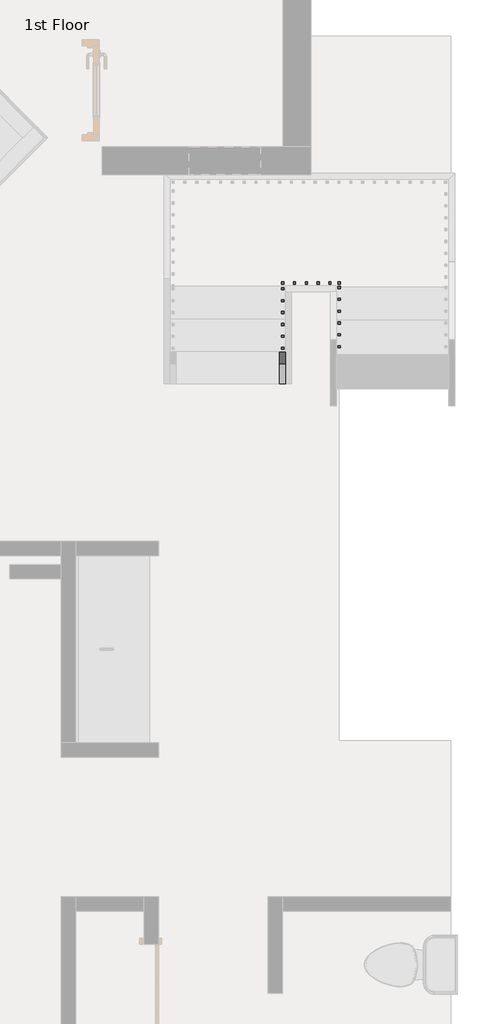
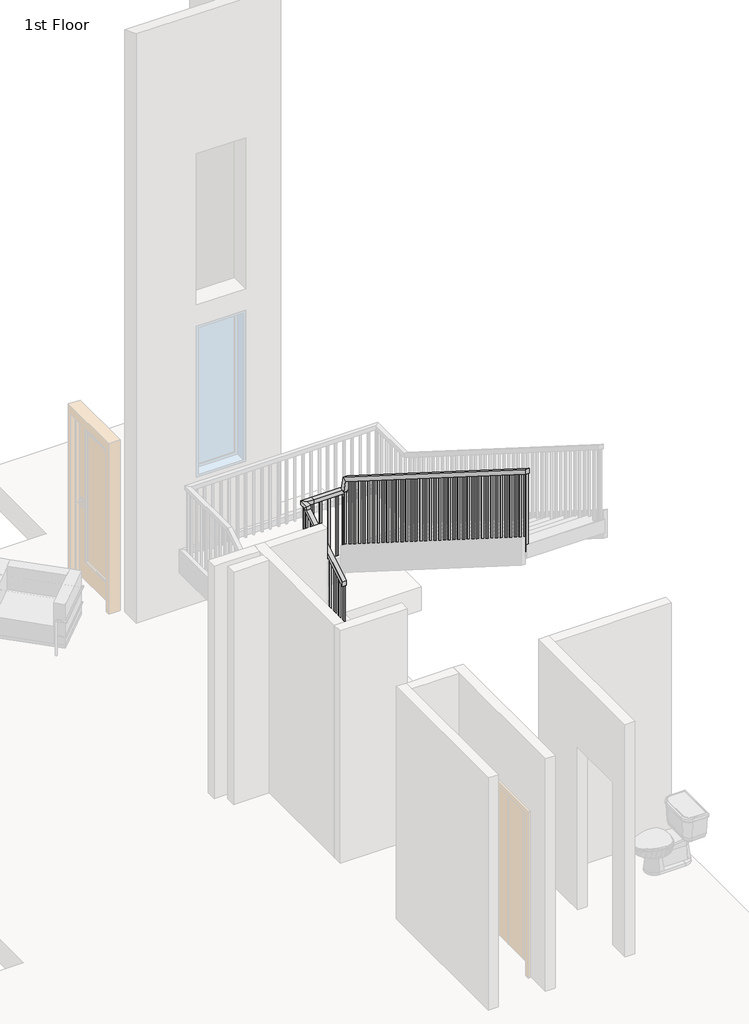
# One storey, part 4 of 6: 1 railing.
"""IFC4 building model written with IfcOpenShell, lengths in millimetres."""

from ifc_helpers import new_model, si_unit, frame, origin, place, context, project, spatial, polyline, outline, extrude, faceted_brep, element, save

model = new_model("IFC4")

# Units and contexts
model_context = context("Model", 3, world=origin())
ifc_project = project(units=[si_unit("LENGTHUNIT", "METRE", prefix="MILLI")], contexts=[model_context])

# Site, building, storey
site = spatial("IfcSite", under=ifc_project)
building = spatial("IfcBuilding", under=site)
storey = spatial("IfcBuildingStorey", under=building, Name="1st Floor", Elevation=0.0)

# Railing
placement = place(None, origin())
element("IfcRailing", 1, ObjectType="Handrail - Rectangular", at=placement, inside=storey, context=model_context, shape_type="SolidModel", body=[
    faceted_brep([(4173.7939282, 2721.6563085, 1090.8631579), (4173.7939282, 2721.6563085, 1030.7795781), (4224.5939282, 2721.6563085, 1030.7795781), (4224.5939282, 2721.6563085, 1090.8631579), (4173.7939282, 3483.6563085, 1572.1263158), (4173.7939282, 3534.4563085, 1544.1269465), (4224.5939282, 3534.4563085, 1544.1269465), (4224.5939282, 3483.6563085, 1572.1263158), (4173.7939282, 3483.6563085, 1620.2526316), (4173.7939282, 3534.4563085, 1569.4526316), (4224.5939282, 3534.4563085, 1569.4526316), (4224.5939282, 3483.6563085, 1620.2526316), (4173.7939282, 3610.6563085, 1620.2526316), (4173.7939282, 3610.6563085, 1569.4526316), (4224.5939282, 3559.8563085, 1569.4526316), (4224.5939282, 3559.8563085, 1620.2526316), (4300.7939282, 3610.6563085, 1620.2526316), (4300.7939282, 3610.6563085, 1569.4526316), (4300.7939282, 3559.8563085, 1569.4526316), (4300.7939282, 3559.8563085, 1620.2526316), (4709.2030789, 3610.6563085, 1620.2526316), (4709.2030789, 3559.8563085, 1620.2526316), (4709.2030789, 3559.8563085, 1569.4526316), (4709.2030789, 3610.6563085, 1569.4526316)], [[[0, 1, 2, 3]], [[1, 0, 4, 5]], [[2, 1, 5, 6]], [[3, 2, 6, 7]], [[0, 3, 7, 4]], [[5, 4, 8, 9]], [[6, 5, 9, 10]], [[7, 6, 10, 11]], [[4, 7, 11, 8]], [[9, 8, 12, 13]], [[10, 9, 13, 14]], [[11, 10, 14, 15]], [[8, 11, 15, 12]], [[13, 12, 16, 17]], [[14, 13, 17, 18]], [[15, 14, 18, 19]], [[12, 15, 19, 16]], [[20, 21, 22, 23]], [[17, 16, 20, 23]], [[18, 17, 23, 22]], [[19, 18, 22, 21]], [[16, 19, 21, 20]]]),
    faceted_brep([(4709.2030789, 3585.2563085, 1620.2526316), (4709.2030789, 3535.6297104, 1609.3971833), (4658.4030789, 3535.6297104, 1609.3971833), (4658.4030789, 3585.2563085, 1620.2526316), (4709.2030789, 3546.6563085, 1796.7157895), (4709.2030789, 3501.5690485, 1765.1083739), (4658.4030789, 3501.5690485, 1765.1083739), (4658.4030789, 3546.6563085, 1796.7157895), (4709.2030789, -364.9436915, 4267.2), (4658.4030789, -364.9436915, 4267.2), (4658.4030789, -364.9436915, 4207.1164202), (4709.2030789, -364.9436915, 4207.1164202)], [[[0, 1, 2, 3]], [[1, 0, 4, 5]], [[2, 1, 5, 6]], [[3, 2, 6, 7]], [[0, 3, 7, 4]], [[8, 9, 10, 11]], [[5, 4, 8, 11]], [[6, 5, 11, 10]], [[7, 6, 10, 9]], [[4, 7, 9, 8]]]),
    extrude(outline(polyline([(-323.6686915, 4181.0479991), (-304.6186915, 4169.0164202), (-304.6186915, 3176.3368421), (-323.6686915, 3176.3368421), (-323.6686915, 4181.0479991)])), frame((4674.2780789, 0.0, 0.0), z_axis=(1.0, 0.0, 0.0), x_axis=(0.0, 1.0, 0.0)), (0.0, 0.0, 1.0), 19.05),
    extrude(outline(polyline([(-222.0686915, 4116.8795781), (-203.0186915, 4104.8479991), (-203.0186915, 3176.3368421), (-222.0686915, 3176.3368421), (-222.0686915, 4116.8795781)])), frame((4674.2780789, 0.0, 0.0), z_axis=(1.0, 0.0, 0.0), x_axis=(0.0, 1.0, 0.0)), (0.0, 0.0, 1.0), 19.05),
    extrude(outline(polyline([(-120.4686915, 4052.711157), (-101.4186915, 4040.6795781), (-101.4186915, 3176.3368421), (-120.4686915, 3176.3368421), (-120.4686915, 4052.711157)])), frame((4674.2780789, 0.0, 0.0), z_axis=(1.0, 0.0, 0.0), x_axis=(0.0, 1.0, 0.0)), (0.0, 0.0, 1.0), 19.05),
    extrude(outline(polyline([(-18.8686915, 3988.542736), (0.1813085, 3976.511157), (0.1813085, 2999.8736842), (-18.8686915, 2999.8736842), (-18.8686915, 3988.542736)])), frame((4674.2780789, 0.0, 0.0), z_axis=(1.0, 0.0, 0.0), x_axis=(0.0, 1.0, 0.0)), (0.0, 0.0, 1.0), 19.05),
    extrude(outline(polyline([(82.7313085, 3924.3743149), (101.7813085, 3912.342736), (101.7813085, 2999.8736842), (82.7313085, 2999.8736842), (82.7313085, 3924.3743149)])), frame((4674.2780789, 0.0, 0.0), z_axis=(1.0, 0.0, 0.0), x_axis=(0.0, 1.0, 0.0)), (0.0, 0.0, 1.0), 19.05),
    extrude(outline(polyline([(184.3313085, 3860.2058939), (203.3813085, 3848.1743149), (203.3813085, 2999.8736842), (184.3313085, 2999.8736842), (184.3313085, 3860.2058939)])), frame((4674.2780789, 0.0, 0.0), z_axis=(1.0, 0.0, 0.0), x_axis=(0.0, 1.0, 0.0)), (0.0, 0.0, 1.0), 19.05),
    extrude(outline(polyline([(285.9313085, 3796.0374728), (304.9813085, 3784.0058939), (304.9813085, 2823.4105263), (285.9313085, 2823.4105263), (285.9313085, 3796.0374728)])), frame((4674.2780789, 0.0, 0.0), z_axis=(1.0, 0.0, 0.0), x_axis=(0.0, 1.0, 0.0)), (0.0, 0.0, 1.0), 19.05),
    extrude(outline(polyline([(387.5313085, 3731.8690517), (406.5813085, 3719.8374728), (406.5813085, 2823.4105263), (387.5313085, 2823.4105263), (387.5313085, 3731.8690517)])), frame((4674.2780789, 0.0, 0.0), z_axis=(1.0, 0.0, 0.0), x_axis=(0.0, 1.0, 0.0)), (0.0, 0.0, 1.0), 19.05),
    extrude(outline(polyline([(489.1313085, 3667.7006307), (508.1813085, 3655.6690517), (508.1813085, 2646.9473684), (489.1313085, 2646.9473684), (489.1313085, 3667.7006307)])), frame((4674.2780789, 0.0, 0.0), z_axis=(1.0, 0.0, 0.0), x_axis=(0.0, 1.0, 0.0)), (0.0, 0.0, 1.0), 19.05),
    extrude(outline(polyline([(590.7313085, 3603.5322096), (609.7813085, 3591.5006307), (609.7813085, 2646.9473684), (590.7313085, 2646.9473684), (590.7313085, 3603.5322096)])), frame((4674.2780789, 0.0, 0.0), z_axis=(1.0, 0.0, 0.0), x_axis=(0.0, 1.0, 0.0)), (0.0, 0.0, 1.0), 19.05),
    extrude(outline(polyline([(692.3313085, 3539.3637886), (711.3813085, 3527.3322096), (711.3813085, 2646.9473684), (692.3313085, 2646.9473684), (692.3313085, 3539.3637886)])), frame((4674.2780789, 0.0, 0.0), z_axis=(1.0, 0.0, 0.0), x_axis=(0.0, 1.0, 0.0)), (0.0, 0.0, 1.0), 19.05),
    extrude(outline(polyline([(793.9313085, 3475.1953675), (812.9813085, 3463.1637886), (812.9813085, 2470.4842105), (793.9313085, 2470.4842105), (793.9313085, 3475.1953675)])), frame((4674.2780789, 0.0, 0.0), z_axis=(1.0, 0.0, 0.0), x_axis=(0.0, 1.0, 0.0)), (0.0, 0.0, 1.0), 19.05),
    extrude(outline(polyline([(895.5313085, 3411.0269465), (914.5813085, 3398.9953675), (914.5813085, 2470.4842105), (895.5313085, 2470.4842105), (895.5313085, 3411.0269465)])), frame((4674.2780789, 0.0, 0.0), z_axis=(1.0, 0.0, 0.0), x_axis=(0.0, 1.0, 0.0)), (0.0, 0.0, 1.0), 19.05),
    extrude(outline(polyline([(997.1313085, 3346.8585254), (1016.1813085, 3334.8269465), (1016.1813085, 2470.4842105), (997.1313085, 2470.4842105), (997.1313085, 3346.8585254)])), frame((4674.2780789, 0.0, 0.0), z_axis=(1.0, 0.0, 0.0), x_axis=(0.0, 1.0, 0.0)), (0.0, 0.0, 1.0), 19.05),
    extrude(outline(polyline([(1098.7313085, 3282.6901044), (1117.7813085, 3270.6585254), (1117.7813085, 2294.0210526), (1098.7313085, 2294.0210526), (1098.7313085, 3282.6901044)])), frame((4674.2780789, 0.0, 0.0), z_axis=(1.0, 0.0, 0.0), x_axis=(0.0, 1.0, 0.0)), (0.0, 0.0, 1.0), 19.05),
    extrude(outline(polyline([(1200.3313085, 3218.5216833), (1219.3813085, 3206.4901044), (1219.3813085, 2294.0210526), (1200.3313085, 2294.0210526), (1200.3313085, 3218.5216833)])), frame((4674.2780789, 0.0, 0.0), z_axis=(1.0, 0.0, 0.0), x_axis=(0.0, 1.0, 0.0)), (0.0, 0.0, 1.0), 19.05),
    extrude(outline(polyline([(1301.9313085, 3154.3532623), (1320.9813085, 3142.3216833), (1320.9813085, 2294.0210526), (1301.9313085, 2294.0210526), (1301.9313085, 3154.3532623)])), frame((4674.2780789, 0.0, 0.0), z_axis=(1.0, 0.0, 0.0), x_axis=(0.0, 1.0, 0.0)), (0.0, 0.0, 1.0), 19.05),
    extrude(outline(polyline([(1403.5313085, 3090.1848412), (1422.5813085, 3078.1532623), (1422.5813085, 2117.5578947), (1403.5313085, 2117.5578947), (1403.5313085, 3090.1848412)])), frame((4674.2780789, 0.0, 0.0), z_axis=(1.0, 0.0, 0.0), x_axis=(0.0, 1.0, 0.0)), (0.0, 0.0, 1.0), 19.05),
    extrude(outline(polyline([(1505.1313085, 3026.0164202), (1524.1813085, 3013.9848412), (1524.1813085, 2117.5578947), (1505.1313085, 2117.5578947), (1505.1313085, 3026.0164202)])), frame((4674.2780789, 0.0, 0.0), z_axis=(1.0, 0.0, 0.0), x_axis=(0.0, 1.0, 0.0)), (0.0, 0.0, 1.0), 19.05),
    extrude(outline(polyline([(1606.7313085, 2961.8479991), (1625.7813085, 2949.8164202), (1625.7813085, 1941.0947368), (1606.7313085, 1941.0947368), (1606.7313085, 2961.8479991)])), frame((4674.2780789, 0.0, 0.0), z_axis=(1.0, 0.0, 0.0), x_axis=(0.0, 1.0, 0.0)), (0.0, 0.0, 1.0), 19.05),
    extrude(outline(polyline([(1708.3313085, 2897.6795781), (1727.3813085, 2885.6479991), (1727.3813085, 1941.0947368), (1708.3313085, 1941.0947368), (1708.3313085, 2897.6795781)])), frame((4674.2780789, 0.0, 0.0), z_axis=(1.0, 0.0, 0.0), x_axis=(0.0, 1.0, 0.0)), (0.0, 0.0, 1.0), 19.05),
    extrude(outline(polyline([(1809.9313085, 2833.511157), (1828.9813085, 2821.4795781), (1828.9813085, 1941.0947368), (1809.9313085, 1941.0947368), (1809.9313085, 2833.511157)])), frame((4674.2780789, 0.0, 0.0), z_axis=(1.0, 0.0, 0.0), x_axis=(0.0, 1.0, 0.0)), (0.0, 0.0, 1.0), 19.05),
    extrude(outline(polyline([(1911.5313085, 2769.342736), (1930.5813085, 2757.311157), (1930.5813085, 1764.6315789), (1911.5313085, 1764.6315789), (1911.5313085, 2769.342736)])), frame((4674.2780789, 0.0, 0.0), z_axis=(1.0, 0.0, 0.0), x_axis=(0.0, 1.0, 0.0)), (0.0, 0.0, 1.0), 19.05),
    extrude(outline(polyline([(2013.1313085, 2705.1743149), (2032.1813085, 2693.142736), (2032.1813085, 1764.6315789), (2013.1313085, 1764.6315789), (2013.1313085, 2705.1743149)])), frame((4674.2780789, 0.0, 0.0), z_axis=(1.0, 0.0, 0.0), x_axis=(0.0, 1.0, 0.0)), (0.0, 0.0, 1.0), 19.05),
    extrude(outline(polyline([(2114.7313085, 2641.0058939), (2133.7813085, 2628.9743149), (2133.7813085, 1764.6315789), (2114.7313085, 1764.6315789), (2114.7313085, 2641.0058939)])), frame((4674.2780789, 0.0, 0.0), z_axis=(1.0, 0.0, 0.0), x_axis=(0.0, 1.0, 0.0)), (0.0, 0.0, 1.0), 19.05),
    extrude(outline(polyline([(2216.3313085, 2576.8374728), (2235.3813085, 2564.8058939), (2235.3813085, 1588.1684211), (2216.3313085, 1588.1684211), (2216.3313085, 2576.8374728)])), frame((4674.2780789, 0.0, 0.0), z_axis=(1.0, 0.0, 0.0), x_axis=(0.0, 1.0, 0.0)), (0.0, 0.0, 1.0), 19.05),
    extrude(outline(polyline([(2317.9313085, 2512.6690517), (2336.9813085, 2500.6374728), (2336.9813085, 1588.1684211), (2317.9313085, 1588.1684211), (2317.9313085, 2512.6690517)])), frame((4674.2780789, 0.0, 0.0), z_axis=(1.0, 0.0, 0.0), x_axis=(0.0, 1.0, 0.0)), (0.0, 0.0, 1.0), 19.05),
    extrude(outline(polyline([(2419.5313085, 2448.5006307), (2438.5813085, 2436.4690517), (2438.5813085, 1588.1684211), (2419.5313085, 1588.1684211), (2419.5313085, 2448.5006307)])), frame((4674.2780789, 0.0, 0.0), z_axis=(1.0, 0.0, 0.0), x_axis=(0.0, 1.0, 0.0)), (0.0, 0.0, 1.0), 19.05),
    extrude(outline(polyline([(2521.1313085, 2384.3322096), (2540.1813085, 2372.3006307), (2540.1813085, 1411.7052632), (2521.1313085, 1411.7052632), (2521.1313085, 2384.3322096)])), frame((4674.2780789, 0.0, 0.0), z_axis=(1.0, 0.0, 0.0), x_axis=(0.0, 1.0, 0.0)), (0.0, 0.0, 1.0), 19.05),
    extrude(outline(polyline([(2622.7313085, 2320.1637886), (2641.7813085, 2308.1322096), (2641.7813085, 1411.7052632), (2622.7313085, 1411.7052632), (2622.7313085, 2320.1637886)])), frame((4674.2780789, 0.0, 0.0), z_axis=(1.0, 0.0, 0.0), x_axis=(0.0, 1.0, 0.0)), (0.0, 0.0, 1.0), 19.05),
    extrude(outline(polyline([(2724.3313085, 2255.9953675), (2743.3813085, 2243.9637886), (2743.3813085, 1235.2421053), (2724.3313085, 1235.2421053), (2724.3313085, 2255.9953675)])), frame((4674.2780789, 0.0, 0.0), z_axis=(1.0, 0.0, 0.0), x_axis=(0.0, 1.0, 0.0)), (0.0, 0.0, 1.0), 19.05),
    extrude(outline(polyline([(2825.9313085, 2191.8269465), (2844.9813085, 2179.7953675), (2844.9813085, 1235.2421053), (2825.9313085, 1235.2421053), (2825.9313085, 2191.8269465)])), frame((4674.2780789, 0.0, 0.0), z_axis=(1.0, 0.0, 0.0), x_axis=(0.0, 1.0, 0.0)), (0.0, 0.0, 1.0), 19.05),
    extrude(outline(polyline([(2927.5313085, 2127.6585254), (2946.5813085, 2115.6269465), (2946.5813085, 1235.2421053), (2927.5313085, 1235.2421053), (2927.5313085, 2127.6585254)])), frame((4674.2780789, 0.0, 0.0), z_axis=(1.0, 0.0, 0.0), x_axis=(0.0, 1.0, 0.0)), (0.0, 0.0, 1.0), 19.05),
    extrude(outline(polyline([(3029.1313085, 2063.4901044), (3048.1813085, 2051.4585254), (3048.1813085, 1058.7789474), (3029.1313085, 1058.7789474), (3029.1313085, 2063.4901044)])), frame((4674.2780789, 0.0, 0.0), z_axis=(1.0, 0.0, 0.0), x_axis=(0.0, 1.0, 0.0)), (0.0, 0.0, 1.0), 19.05),
    extrude(outline(polyline([(3130.7313085, 1999.3216833), (3149.7813085, 1987.2901044), (3149.7813085, 1058.7789474), (3130.7313085, 1058.7789474), (3130.7313085, 1999.3216833)])), frame((4674.2780789, 0.0, 0.0), z_axis=(1.0, 0.0, 0.0), x_axis=(0.0, 1.0, 0.0)), (0.0, 0.0, 1.0), 19.05),
    extrude(outline(polyline([(3232.3313085, 1935.1532623), (3251.3813085, 1923.1216833), (3251.3813085, 1058.7789474), (3232.3313085, 1058.7789474), (3232.3313085, 1935.1532623)])), frame((4674.2780789, 0.0, 0.0), z_axis=(1.0, 0.0, 0.0), x_axis=(0.0, 1.0, 0.0)), (0.0, 0.0, 1.0), 19.05),
    extrude(outline(polyline([(3333.9313085, 1870.9848412), (3352.9813085, 1858.9532623), (3352.9813085, 882.3157895), (3333.9313085, 882.3157895), (3333.9313085, 1870.9848412)])), frame((4674.2780789, 0.0, 0.0), z_axis=(1.0, 0.0, 0.0), x_axis=(0.0, 1.0, 0.0)), (0.0, 0.0, 1.0), 19.05),
    extrude(outline(polyline([(3435.5313085, 1806.8164202), (3454.5813085, 1794.7848412), (3454.5813085, 882.3157895), (3435.5313085, 882.3157895), (3435.5313085, 1806.8164202)])), frame((4674.2780789, 0.0, 0.0), z_axis=(1.0, 0.0, 0.0), x_axis=(0.0, 1.0, 0.0)), (0.0, 0.0, 1.0), 19.05),
    extrude(outline(polyline([(4596.0689282, 3575.7313085), (4596.0689282, 3594.7813085), (4615.1189282, 3594.7813085), (4615.1189282, 3575.7313085), (4596.0689282, 3575.7313085)])), frame((0.0, 0.0, 705.8526316), z_axis=(0.0, 0.0, 1.0), x_axis=(1.0, 0.0, 0.0)), (0.0, 0.0, 1.0), 863.6),
    extrude(outline(polyline([(4494.4689282, 3575.7313085), (4494.4689282, 3594.7813085), (4513.5189282, 3594.7813085), (4513.5189282, 3575.7313085), (4494.4689282, 3575.7313085)])), frame((0.0, 0.0, 705.8526316), z_axis=(0.0, 0.0, 1.0), x_axis=(1.0, 0.0, 0.0)), (0.0, 0.0, 1.0), 863.6),
    extrude(outline(polyline([(4392.8689282, 3575.7313085), (4392.8689282, 3594.7813085), (4411.9189282, 3594.7813085), (4411.9189282, 3575.7313085), (4392.8689282, 3575.7313085)])), frame((0.0, 0.0, 705.8526316), z_axis=(0.0, 0.0, 1.0), x_axis=(1.0, 0.0, 0.0)), (0.0, 0.0, 1.0), 863.6),
    extrude(outline(polyline([(4291.2689282, 3575.7313085), (4291.2689282, 3594.7813085), (4310.3189282, 3594.7813085), (4310.3189282, 3575.7313085), (4291.2689282, 3575.7313085)])), frame((0.0, 0.0, 705.8526316), z_axis=(0.0, 0.0, 1.0), x_axis=(1.0, 0.0, 0.0)), (0.0, 0.0, 1.0), 863.6),
    extrude(outline(polyline([(4208.7189282, 3524.9313085), (4189.6689282, 3524.9313085), (4189.6689282, 3543.9813085), (4208.7189282, 3543.9813085), (4208.7189282, 3524.9313085)])), frame((0.0, 0.0, 529.3894737), z_axis=(0.0, 0.0, 1.0), x_axis=(1.0, 0.0, 0.0)), (0.0, 0.0, 1.0), 1040.0631579),
    extrude(outline(polyline([(3423.3313085, 1473.942736), (3442.3813085, 1485.9743149), (3442.3813085, 529.3894737), (3423.3313085, 529.3894737), (3423.3313085, 1473.942736)])), frame((4189.6689282, 0.0, 0.0), z_axis=(1.0, 0.0, 0.0), x_axis=(0.0, 1.0, 0.0)), (0.0, 0.0, 1.0), 19.05),
    extrude(outline(polyline([(3321.7313085, 1409.7743149), (3340.7813085, 1421.8058939), (3340.7813085, 529.3894737), (3321.7313085, 529.3894737), (3321.7313085, 1409.7743149)])), frame((4189.6689282, 0.0, 0.0), z_axis=(1.0, 0.0, 0.0), x_axis=(0.0, 1.0, 0.0)), (0.0, 0.0, 1.0), 19.05),
    extrude(outline(polyline([(3220.1313085, 1345.6058939), (3239.1813085, 1357.6374728), (3239.1813085, 352.9263158), (3220.1313085, 352.9263158), (3220.1313085, 1345.6058939)])), frame((4189.6689282, 0.0, 0.0), z_axis=(1.0, 0.0, 0.0), x_axis=(0.0, 1.0, 0.0)), (0.0, 0.0, 1.0), 19.05),
    extrude(outline(polyline([(3118.5313085, 1281.4374728), (3137.5813085, 1293.4690517), (3137.5813085, 352.9263158), (3118.5313085, 352.9263158), (3118.5313085, 1281.4374728)])), frame((4189.6689282, 0.0, 0.0), z_axis=(1.0, 0.0, 0.0), x_axis=(0.0, 1.0, 0.0)), (0.0, 0.0, 1.0), 19.05),
    extrude(outline(polyline([(3016.9313085, 1217.2690517), (3035.9813085, 1229.3006307), (3035.9813085, 352.9263158), (3016.9313085, 352.9263158), (3016.9313085, 1217.2690517)])), frame((4189.6689282, 0.0, 0.0), z_axis=(1.0, 0.0, 0.0), x_axis=(0.0, 1.0, 0.0)), (0.0, 0.0, 1.0), 19.05),
    extrude(outline(polyline([(2915.3313085, 1153.1006307), (2934.3813085, 1165.1322096), (2934.3813085, 176.4631579), (2915.3313085, 176.4631579), (2915.3313085, 1153.1006307)])), frame((4189.6689282, 0.0, 0.0), z_axis=(1.0, 0.0, 0.0), x_axis=(0.0, 1.0, 0.0)), (0.0, 0.0, 1.0), 19.05),
    extrude(outline(polyline([(2813.7313085, 1088.9322096), (2832.7813085, 1100.9637886), (2832.7813085, 176.4631579), (2813.7313085, 176.4631579), (2813.7313085, 1088.9322096)])), frame((4189.6689282, 0.0, 0.0), z_axis=(1.0, 0.0, 0.0), x_axis=(0.0, 1.0, 0.0)), (0.0, 0.0, 1.0), 19.05),
    extrude(outline(polyline([(3537.1313085, 1602.5325007), (3556.1813085, 1515.4438178), (3556.1813085, 705.8526316), (3537.1313085, 705.8526316), (3537.1313085, 1602.5325007)])), frame((4674.2780789, 0.0, 0.0), z_axis=(1.0, 0.0, 0.0), x_axis=(0.0, 1.0, 0.0)), (0.0, 0.0, 1.0), 19.05),
    extrude(outline(polyline([(4674.2780789, 3575.7313085), (4674.2780789, 3594.7813085), (4693.3280789, 3594.7813085), (4693.3280789, 3575.7313085), (4674.2780789, 3575.7313085)])), frame((0.0, 0.0, 705.8526316), z_axis=(0.0, 0.0, 1.0), x_axis=(1.0, 0.0, 0.0)), (0.0, 0.0, 1.0), 863.6),
    extrude(outline(polyline([(4208.7189282, 3575.7313085), (4189.6689282, 3575.7313085), (4189.6689282, 3594.7813085), (4208.7189282, 3594.7813085), (4208.7189282, 3575.7313085)])), frame((0.0, 0.0, 705.8526316), z_axis=(0.0, 0.0, 1.0), x_axis=(1.0, 0.0, 0.0)), (0.0, 0.0, 1.0), 863.6),
    extrude(outline(polyline([(-364.9436915, 4207.1164202), (-345.8936915, 4195.0848412), (-345.8936915, 3176.3368421), (-364.9436915, 3176.3368421), (-364.9436915, 4207.1164202)])), frame((4674.2780789, 0.0, 0.0), z_axis=(1.0, 0.0, 0.0), x_axis=(0.0, 1.0, 0.0)), (0.0, 0.0, 1.0), 19.05),
    extrude(outline(polyline([(2721.6563085, 1030.7795781), (2740.7063085, 1042.811157), (2740.7063085, 176.4631579), (2721.6563085, 176.4631579), (2721.6563085, 1030.7795781)])), frame((4189.6689282, 0.0, 0.0), z_axis=(1.0, 0.0, 0.0), x_axis=(0.0, 1.0, 0.0)), (0.0, 0.0, 1.0), 19.05),
])

save(model, "model.ifc")
